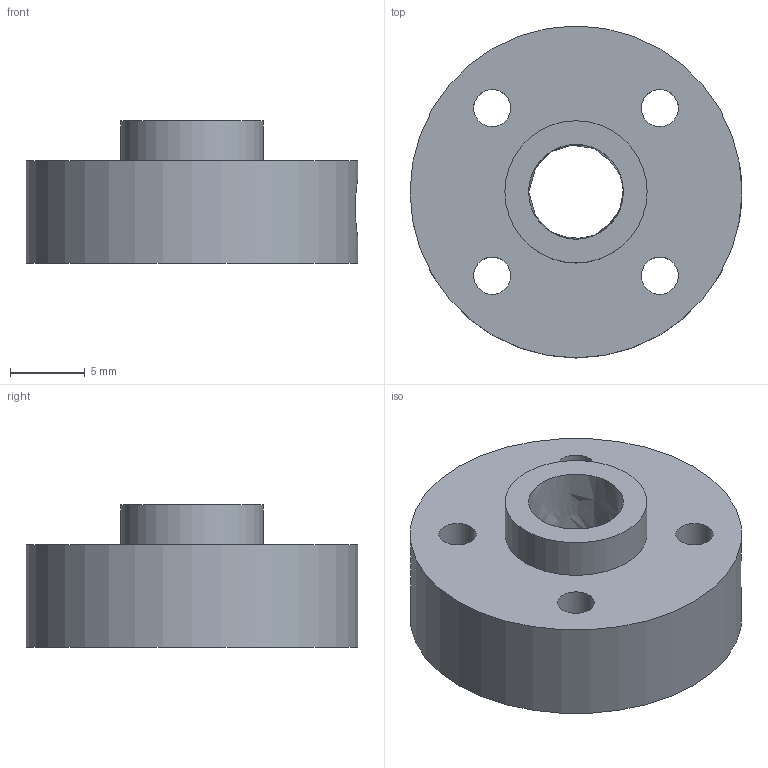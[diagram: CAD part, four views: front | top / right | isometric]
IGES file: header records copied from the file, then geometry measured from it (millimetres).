
Global section: file name: No Iges File Name specified; native system: AutoDesk Inventor R6.0; preprocessor: AutoDesk Inventor Iges Exporter R6.0; author: No Author specified; organization: No Organization specified; date: 20080103.175231; units: inch
Bounding box: 22.23 x 22.23 x 9.53 mm (x, y, z)
Surface area: 1713.2 mm2 (no closed solid volume)
Topology: 0 solids, 0 shells, 11 faces, 50 edges, 41 vertices
Faces by surface type: bspline 6, plane 3, revolution 2
